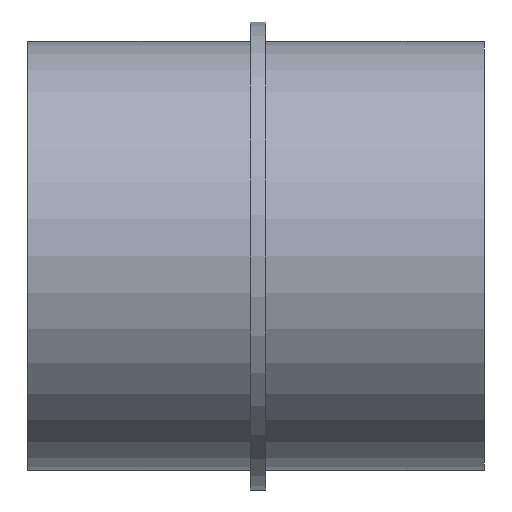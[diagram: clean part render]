
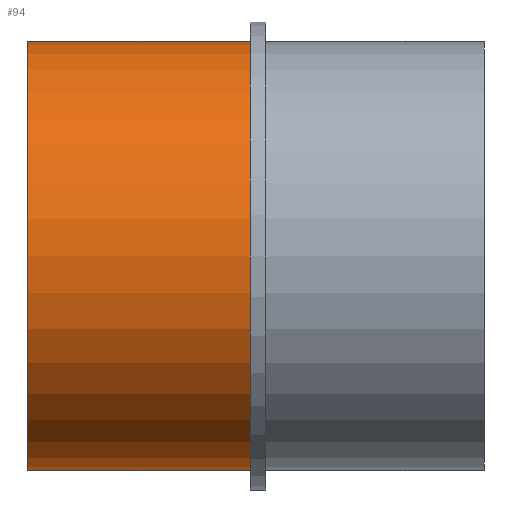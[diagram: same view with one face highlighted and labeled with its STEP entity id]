
A CAD part, front view. The second image highlights one B-rep face of the part: STEP entity #94.
In plain terms, the highlighted cylindrical face has radius 55 mm (diameter 110 mm), a full revolution.
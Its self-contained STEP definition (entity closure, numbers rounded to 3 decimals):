
#18=FACE_BOUND($,#35,.T.);
#28=FACE_OUTER_BOUND($,#34,.T.);
#34=EDGE_LOOP($,(#74));
#35=EDGE_LOOP($,(#75));
#50=CIRCLE($,#106,55.);
#51=CIRCLE($,#107,55.);
#58=VERTEX_POINT($,#157);
#59=VERTEX_POINT($,#159);
#66=EDGE_CURVE($,#58,#58,#50,.T.);
#67=EDGE_CURVE($,#59,#59,#51,.T.);
#74=ORIENTED_EDGE($,*,*,#66,.F.);
#75=ORIENTED_EDGE($,*,*,#67,.T.);
#90=CYLINDRICAL_SURFACE($,#105,55.);
#94=ADVANCED_FACE($,(#28,#18),#90,.T.);
#105=AXIS2_PLACEMENT_3D($,#156,#123,#124);
#106=AXIS2_PLACEMENT_3D($,#158,#125,#126);
#107=AXIS2_PLACEMENT_3D($,#160,#127,#128);
#123=DIRECTION('center_axis',(1.,0.,0.));
#124=DIRECTION('ref_axis',(0.,1.,0.));
#125=DIRECTION('center_axis',(1.,0.,0.));
#126=DIRECTION('ref_axis',(0.,1.,0.));
#127=DIRECTION('center_axis',(1.,0.,0.));
#128=DIRECTION('ref_axis',(0.,1.,0.));
#156=CARTESIAN_POINT('Origin',(28.5,0.,0.));
#157=CARTESIAN_POINT('',(57.,55.,0.));
#158=CARTESIAN_POINT('Origin',(57.,0.,0.));
#159=CARTESIAN_POINT('',(0.,55.,0.));
#160=CARTESIAN_POINT('Origin',(0.,0.,
0.));
